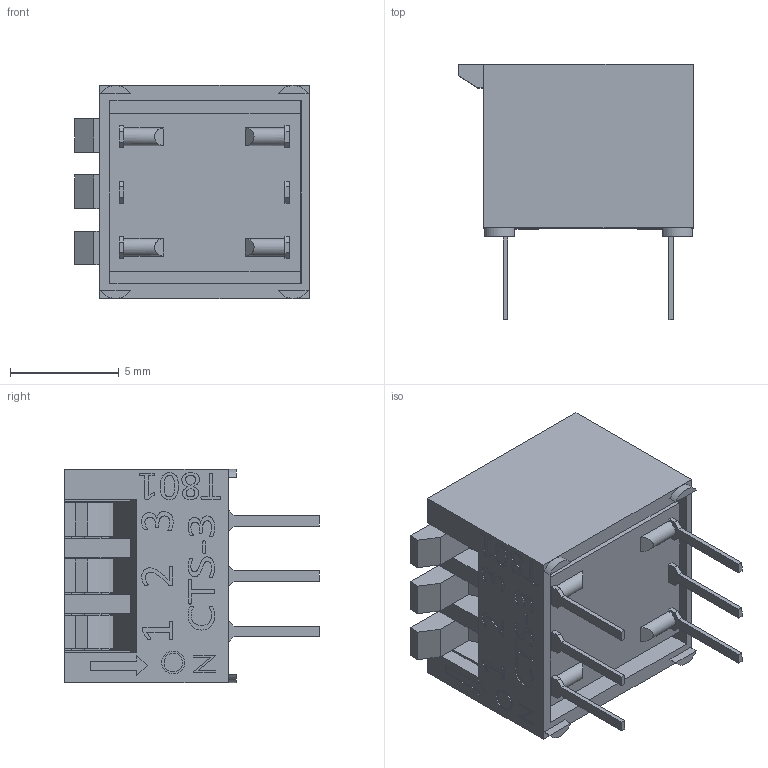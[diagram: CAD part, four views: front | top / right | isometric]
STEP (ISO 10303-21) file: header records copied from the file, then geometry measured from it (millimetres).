
FILE_DESCRIPTION (( 'STEP AP214' ), '1' );
FILE_NAME ('194-3MS.STEP', '2019-05-24T05:49:14', ( '' ), ( '' ), 'SwSTEP 2.0', 'SolidWorks 2019', '' );
FILE_SCHEMA (( 'AUTOMOTIVE_DESIGN' ));
Length unit declared in the file: millimetre
Products named in the file (4): 194-3 pole assembly; 193-56-001; 194-40-103; 194-3MS
Assembly tree (5 placements, depth 2):
  194-3MS
    194-40-103
    194-3 pole assembly
    193-56-001  x3
Bounding box: 10.79 x 11.71 x 9.8 mm (x, y, z)
Volume: 530.9 mm3; surface area: 1189 mm2
Topology: 5 solids, 5 shells, 366 faces, 1001 edges, 666 vertices
Faces by surface type: plane 214, bspline 129, cylinder 23
Entity records: 19908 total; most frequent: CARTESIAN_POINT 9706, ORIENTED_EDGE 1882, DIRECTION 1151, EDGE_CURVE 941, LINE 649, VECTOR 649, VERTEX_POINT 626, EDGE_LOOP 369
